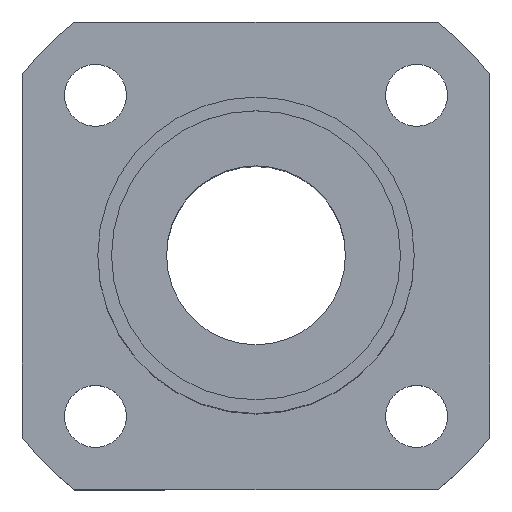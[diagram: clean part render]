
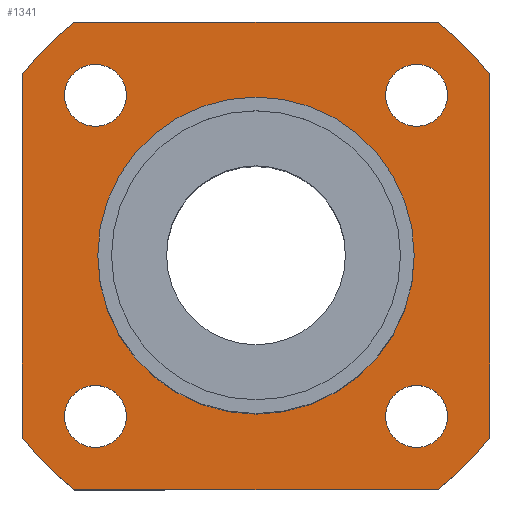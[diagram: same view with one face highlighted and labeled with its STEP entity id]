
A CAD part, top view. The second image highlights one B-rep face of the part: STEP entity #1341.
In plain terms, the highlighted planar face has unit normal (0, 0, 1).
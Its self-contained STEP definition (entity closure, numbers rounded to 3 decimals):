
#91=CARTESIAN_POINT('',(-25.531,3.294,6.0));
#92=VERTEX_POINT('',#91);
#101=CARTESIAN_POINT('',(-2.531,3.294,6.));
#102=VERTEX_POINT('',#101);
#103=CARTESIAN_POINT('',(-14.031,3.294,6.));
#104=DIRECTION('',(0.0,0.0,-1.0));
#105=DIRECTION('',(-1.0,0.0,0.0));
#106=AXIS2_PLACEMENT_3D('',#103,#104,#105);
#107=CIRCLE('',#106,11.5);
#108=EDGE_CURVE('',#102,#92,#107,.T.);
#217=CARTESIAN_POINT('',(-23.448,-8.373,6.));
#218=VERTEX_POINT('',#217);
#227=CARTESIAN_POINT('',(-27.948,-8.373,6.));
#228=VERTEX_POINT('',#227);
#229=CARTESIAN_POINT('',(-25.698,-8.373,6.));
#230=DIRECTION('',(0.0,0.0,-1.0));
#231=DIRECTION('',(1.0,0.0,0.0));
#232=AXIS2_PLACEMENT_3D('',#229,#230,#231);
#233=CIRCLE('',#232,2.25);
#234=EDGE_CURVE('',#228,#218,#233,.T.);
#301=CARTESIAN_POINT('',(-0.113,14.962,6.));
#302=VERTEX_POINT('',#301);
#311=CARTESIAN_POINT('',(-4.613,14.962,6.));
#312=VERTEX_POINT('',#311);
#313=CARTESIAN_POINT('',(-2.363,14.962,6.));
#314=DIRECTION('',(0.0,0.0,-1.0));
#315=DIRECTION('',(1.0,0.0,0.0));
#316=AXIS2_PLACEMENT_3D('',#313,#314,#315);
#317=CIRCLE('',#316,2.25);
#318=EDGE_CURVE('',#312,#302,#317,.T.);
#385=CARTESIAN_POINT('',(-23.448,14.962,6.));
#386=VERTEX_POINT('',#385);
#395=CARTESIAN_POINT('',(-27.948,14.962,6.));
#396=VERTEX_POINT('',#395);
#397=CARTESIAN_POINT('',(-25.698,14.962,6.));
#398=DIRECTION('',(0.0,0.0,-1.0));
#399=DIRECTION('',(1.0,0.0,0.0));
#400=AXIS2_PLACEMENT_3D('',#397,#398,#399);
#401=CIRCLE('',#400,2.25);
#402=EDGE_CURVE('',#396,#386,#401,.T.);
#469=CARTESIAN_POINT('',(-0.113,-8.373,6.));
#470=VERTEX_POINT('',#469);
#479=CARTESIAN_POINT('',(-4.613,-8.373,6.));
#480=VERTEX_POINT('',#479);
#481=CARTESIAN_POINT('',(-2.363,-8.373,6.));
#482=DIRECTION('',(0.0,0.0,-1.0));
#483=DIRECTION('',(1.0,0.0,0.0));
#484=AXIS2_PLACEMENT_3D('',#481,#482,#483);
#485=CIRCLE('',#484,2.25);
#486=EDGE_CURVE('',#480,#470,#485,.T.);
#686=CARTESIAN_POINT('',(-2.363,-8.373,6.));
#687=DIRECTION('',(0.0,0.0,-1.0));
#688=DIRECTION('',(1.0,0.0,0.0));
#689=AXIS2_PLACEMENT_3D('',#686,#687,#688);
#690=CIRCLE('',#689,2.25);
#691=EDGE_CURVE('',#470,#480,#690,.T.);
#748=CARTESIAN_POINT('',(-25.698,14.962,6.));
#749=DIRECTION('',(0.0,0.0,-1.0));
#750=DIRECTION('',(1.0,0.0,0.0));
#751=AXIS2_PLACEMENT_3D('',#748,#749,#750);
#752=CIRCLE('',#751,2.25);
#753=EDGE_CURVE('',#386,#396,#752,.T.);
#810=CARTESIAN_POINT('',(-2.363,14.962,6.));
#811=DIRECTION('',(0.0,0.0,-1.0));
#812=DIRECTION('',(1.0,0.0,0.0));
#813=AXIS2_PLACEMENT_3D('',#810,#811,#812);
#814=CIRCLE('',#813,2.25);
#815=EDGE_CURVE('',#302,#312,#814,.T.);
#872=CARTESIAN_POINT('',(-25.698,-8.373,6.));
#873=DIRECTION('',(0.0,0.0,-1.0));
#874=DIRECTION('',(1.0,0.0,0.0));
#875=AXIS2_PLACEMENT_3D('',#872,#873,#874);
#876=CIRCLE('',#875,2.25);
#877=EDGE_CURVE('',#218,#228,#876,.T.);
#1074=CARTESIAN_POINT('',(-14.031,3.294,6.));
#1075=DIRECTION('',(0.0,0.0,-1.0));
#1076=DIRECTION('',(-1.0,0.0,0.0));
#1077=AXIS2_PLACEMENT_3D('',#1074,#1075,#1076);
#1078=CIRCLE('',#1077,11.5);
#1079=EDGE_CURVE('',#92,#102,#1078,.T.);
#1115=CARTESIAN_POINT('',(-0.868,20.294,6.));
#1116=VERTEX_POINT('',#1115);
#1117=CARTESIAN_POINT('',(2.969,16.457,6.));
#1118=VERTEX_POINT('',#1117);
#1119=CARTESIAN_POINT('',(-14.031,3.294,6.));
#1120=DIRECTION('',(0.0,0.0,-1.));
#1121=DIRECTION('',(0.791,0.612,0.0));
#1122=AXIS2_PLACEMENT_3D('',#1119,#1120,#1121);
#1123=CIRCLE('',#1122,21.5);
#1124=EDGE_CURVE('',#1116,#1118,#1123,.T.);
#1147=CARTESIAN_POINT('',(2.969,-9.868,6.));
#1148=VERTEX_POINT('',#1147);
#1149=CARTESIAN_POINT('',(2.969,16.457,6.));
#1150=DIRECTION('',(0.0,-1.0,0.0));
#1151=VECTOR('',#1150,26.325);
#1152=LINE('',#1149,#1151);
#1153=EDGE_CURVE('',#1118,#1148,#1152,.T.);
#1171=CARTESIAN_POINT('',(-0.868,-13.706,6.));
#1172=VERTEX_POINT('',#1171);
#1173=CARTESIAN_POINT('',(-14.031,3.294,6.));
#1174=DIRECTION('',(0.0,0.0,-1.));
#1175=DIRECTION('',(0.612,-0.791,0.0));
#1176=AXIS2_PLACEMENT_3D('',#1173,#1174,#1175);
#1177=CIRCLE('',#1176,21.5);
#1178=EDGE_CURVE('',#1148,#1172,#1177,.T.);
#1196=CARTESIAN_POINT('',(-27.193,-13.706,6.));
#1197=VERTEX_POINT('',#1196);
#1198=CARTESIAN_POINT('',(-0.868,-13.706,6.));
#1199=DIRECTION('',(-1.0,0.0,0.0));
#1200=VECTOR('',#1199,26.325);
#1201=LINE('',#1198,#1200);
#1202=EDGE_CURVE('',#1172,#1197,#1201,.T.);
#1220=CARTESIAN_POINT('',(-31.031,-9.868,6.));
#1221=VERTEX_POINT('',#1220);
#1222=CARTESIAN_POINT('',(-14.031,3.294,6.));
#1223=DIRECTION('',(0.0,0.0,-1.0));
#1224=DIRECTION('',(-0.791,-0.612,0.0));
#1225=AXIS2_PLACEMENT_3D('',#1222,#1223,#1224);
#1226=CIRCLE('',#1225,21.5);
#1227=EDGE_CURVE('',#1197,#1221,#1226,.T.);
#1245=CARTESIAN_POINT('',(-31.031,16.457,6.));
#1246=VERTEX_POINT('',#1245);
#1247=CARTESIAN_POINT('',(-31.031,-9.868,6.));
#1248=DIRECTION('',(0.0,1.0,0.0));
#1249=VECTOR('',#1248,26.325);
#1250=LINE('',#1247,#1249);
#1251=EDGE_CURVE('',#1221,#1246,#1250,.T.);
#1269=CARTESIAN_POINT('',(-27.193,20.294,6.));
#1270=VERTEX_POINT('',#1269);
#1271=CARTESIAN_POINT('',(-14.031,3.294,6.));
#1272=DIRECTION('',(0.0,0.0,-1.0));
#1273=DIRECTION('',(-0.612,0.791,0.0));
#1274=AXIS2_PLACEMENT_3D('',#1271,#1272,#1273);
#1275=CIRCLE('',#1274,21.5);
#1276=EDGE_CURVE('',#1246,#1270,#1275,.T.);
#1294=CARTESIAN_POINT('',(-27.193,20.294,6.));
#1295=DIRECTION('',(1.0,0.0,0.0));
#1296=VECTOR('',#1295,26.325);
#1297=LINE('',#1294,#1296);
#1298=EDGE_CURVE('',#1270,#1116,#1297,.T.);
#1306=CARTESIAN_POINT('',(-14.031,3.294,6.));
#1307=DIRECTION('',(0.0,0.0,1.0));
#1308=DIRECTION('',(1.0,0.0,0.0));
#1309=AXIS2_PLACEMENT_3D('',#1306,#1307,#1308);
#1310=PLANE('',#1309);
#1311=ORIENTED_EDGE('',*,*,#1124,.F.);
#1312=ORIENTED_EDGE('',*,*,#1298,.F.);
#1313=ORIENTED_EDGE('',*,*,#1276,.F.);
#1314=ORIENTED_EDGE('',*,*,#1251,.F.);
#1315=ORIENTED_EDGE('',*,*,#1227,.F.);
#1316=ORIENTED_EDGE('',*,*,#1202,.F.);
#1317=ORIENTED_EDGE('',*,*,#1178,.F.);
#1318=ORIENTED_EDGE('',*,*,#1153,.F.);
#1319=EDGE_LOOP('',(#1311,#1312,#1313,#1314,#1315,#1316,#1317,#1318));
#1320=FACE_OUTER_BOUND('',#1319,.T.);
#1321=ORIENTED_EDGE('',*,*,#486,.T.);
#1322=ORIENTED_EDGE('',*,*,#691,.T.);
#1323=EDGE_LOOP('',(#1321,#1322));
#1324=FACE_BOUND('',#1323,.T.);
#1325=ORIENTED_EDGE('',*,*,#402,.T.);
#1326=ORIENTED_EDGE('',*,*,#753,.T.);
#1327=EDGE_LOOP('',(#1325,#1326));
#1328=FACE_BOUND('',#1327,.T.);
#1329=ORIENTED_EDGE('',*,*,#318,.T.);
#1330=ORIENTED_EDGE('',*,*,#815,.T.);
#1331=EDGE_LOOP('',(#1329,#1330));
#1332=FACE_BOUND('',#1331,.T.);
#1333=ORIENTED_EDGE('',*,*,#234,.T.);
#1334=ORIENTED_EDGE('',*,*,#877,.T.);
#1335=EDGE_LOOP('',(#1333,#1334));
#1336=FACE_BOUND('',#1335,.T.);
#1337=ORIENTED_EDGE('',*,*,#108,.T.);
#1338=ORIENTED_EDGE('',*,*,#1079,.T.);
#1339=EDGE_LOOP('',(#1337,#1338));
#1340=FACE_BOUND('',#1339,.T.);
#1341=ADVANCED_FACE('',(#1320,#1324,#1328,#1332,#1336,#1340),#1310,.T.);
